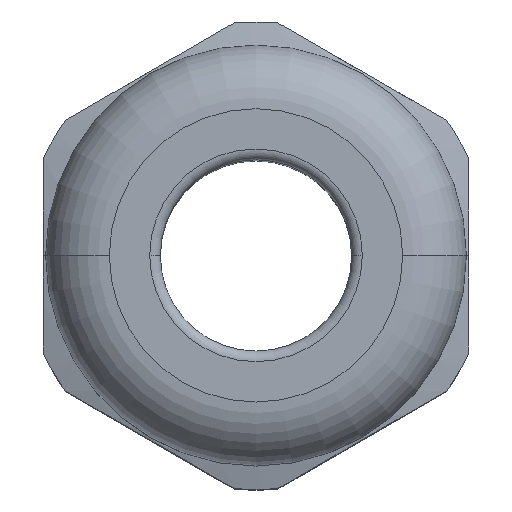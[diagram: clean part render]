
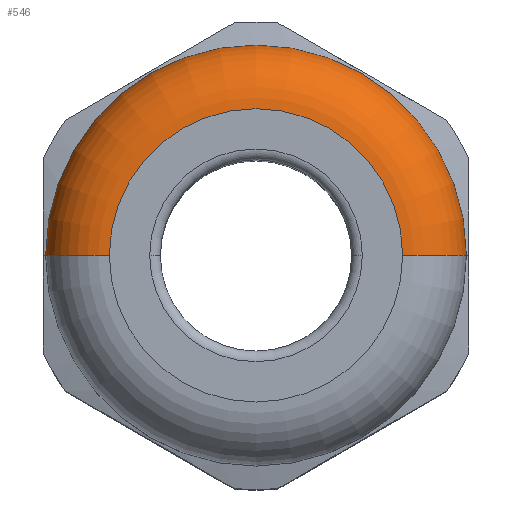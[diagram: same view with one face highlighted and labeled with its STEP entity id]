
A CAD part, top view. The second image highlights one B-rep face of the part: STEP entity #546.
In plain terms, the highlighted toroidal (fillet/blend) face has major radius 6.9 mm and minor radius 3 mm.
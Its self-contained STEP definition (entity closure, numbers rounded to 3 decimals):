
#539 = EDGE_LOOP ( 'NONE', ( #562, #565, #559, #657 ) ) ;
#546 = ADVANCED_FACE ( 'NONE', ( #1784 ), #1781, .T. ) ;
#559 = ORIENTED_EDGE ( 'NONE', *, *, #782, .F. ) ;
#560 = VERTEX_POINT ( 'NONE', #1750 ) ;
#562 = ORIENTED_EDGE ( 'NONE', *, *, #563, .T. ) ;
#563 = EDGE_CURVE ( 'NONE', #829, #830, #1825, .T. ) ;
#564 = VERTEX_POINT ( 'NONE', #1821 ) ;
#565 = ORIENTED_EDGE ( 'NONE', *, *, #827, .T. ) ;
#657 = ORIENTED_EDGE ( 'NONE', *, *, #658, .F. ) ;
#658 = EDGE_CURVE ( 'NONE', #829, #560, #1961, .T. ) ;
#782 = EDGE_CURVE ( 'NONE', #560, #564, #2389, .T. ) ;
#827 = EDGE_CURVE ( 'NONE', #830, #564, #2462, .T. ) ;
#829 = VERTEX_POINT ( 'NONE', #2584 ) ;
#830 = VERTEX_POINT ( 'NONE', #2583 ) ;
#1750 = CARTESIAN_POINT ( 'NONE',  ( -9.9, 0., 30. ) ) ;
#1778 = DIRECTION ( 'NONE',  ( -1., 0., 0. ) ) ;
#1779 = DIRECTION ( 'NONE',  ( 0., 0., -1. ) ) ;
#1780 = CARTESIAN_POINT ( 'NONE',  ( 0., 0., 30. ) ) ;
#1781 = TOROIDAL_SURFACE ( 'NONE', #1783, 6.9, 3. ) ;
#1783 = AXIS2_PLACEMENT_3D ( 'NONE', #1780, #1779, #1778 ) ;
#1784 = FACE_OUTER_BOUND ( 'NONE', #539, .T. ) ;
#1821 = CARTESIAN_POINT ( 'NONE',  ( 9.9, 0., 30. ) ) ;
#1822 = DIRECTION ( 'NONE',  ( -1., 0., 0. ) ) ;
#1823 = DIRECTION ( 'NONE',  ( 0., 0., -1. ) ) ;
#1824 = AXIS2_PLACEMENT_3D ( 'NONE', #1831, #1823, #1822 ) ;
#1825 = CIRCLE ( 'NONE', #1824, 6.9 ) ;
#1831 = CARTESIAN_POINT ( 'NONE',  ( 0., 0., 33. ) ) ;
#1953 = DIRECTION ( 'NONE',  ( 0., 0., -1. ) ) ;
#1954 = DIRECTION ( 'NONE',  ( 0., -1., 0. ) ) ;
#1955 = CARTESIAN_POINT ( 'NONE',  ( -6.9, 0., 30. ) ) ;
#1956 = AXIS2_PLACEMENT_3D ( 'NONE', #1955, #1954, #1953 ) ;
#1961 = CIRCLE ( 'NONE', #1956, 3. ) ;
#2385 = DIRECTION ( 'NONE',  ( -1., 0., 0. ) ) ;
#2386 = DIRECTION ( 'NONE',  ( 0., 0., -1. ) ) ;
#2387 = CARTESIAN_POINT ( 'NONE',  ( 0., 0., 30. ) ) ;
#2388 = AXIS2_PLACEMENT_3D ( 'NONE', #2387, #2386, #2385 ) ;
#2389 = CIRCLE ( 'NONE', #2388, 9.9 ) ;
#2460 = CARTESIAN_POINT ( 'NONE',  ( 6.9, 0., 30. ) ) ;
#2461 = AXIS2_PLACEMENT_3D ( 'NONE', #2460, #2640, #2639 ) ;
#2462 = CIRCLE ( 'NONE', #2461, 3. ) ;
#2583 = CARTESIAN_POINT ( 'NONE',  ( 6.9, 0., 33. ) ) ;
#2584 = CARTESIAN_POINT ( 'NONE',  ( -6.9, 0., 33. ) ) ;
#2639 = DIRECTION ( 'NONE',  ( -1., 0., 0. ) ) ;
#2640 = DIRECTION ( 'NONE',  ( 0., 1., 0. ) ) ;
